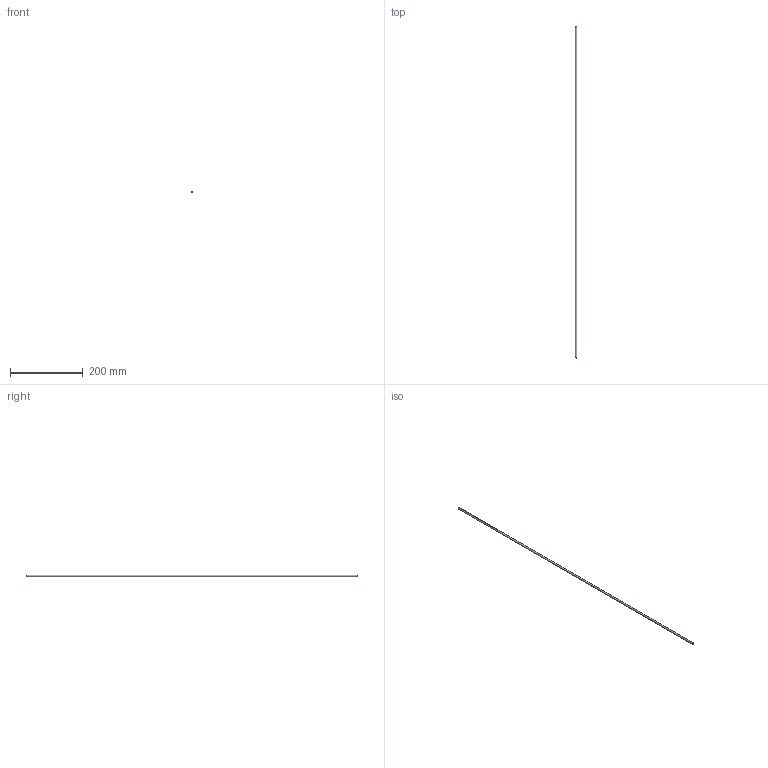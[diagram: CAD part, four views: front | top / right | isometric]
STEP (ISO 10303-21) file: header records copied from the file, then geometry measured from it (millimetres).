
FILE_DESCRIPTION(/* description */ (''),/* implementation_level */ '2;1');
FILE_NAME(/* name */ 'C:/Users/drich/Desktop/187T-36 v1.step',/* time_stamp */ '2019-12-27T17:26:51-06:00',/* author */ (''),/* organization */ (''),/* preprocessor_version */ 'ST-DEVELOPER v18',/* originating_system */ 'Autodesk Translation Framework v8.12.0.6',/* authorisation */ '');
FILE_SCHEMA (('AUTOMOTIVE_DESIGN { 1 0 10303 214 3 1 1 }'));
Length unit declared in the file: inch
Products named in the file (1): 187T-36
Bounding box: 4.73 x 914.4 x 4.73 mm (x, y, z)
Volume: 9036 mm3; surface area: 22568.9 mm2
Topology: 1 solids, 1 shells, 6 faces, 14 edges, 10 vertices
Faces by surface type: cone 2, cylinder 2, plane 2
Full cylindrical faces by diameter (mm): 3.124 x1, 4.727 x1
Entity records: 230 total; most frequent: DIRECTION 38, CARTESIAN_POINT 31, ORIENTED_EDGE 28, AXIS2_PLACEMENT_3D 17, EDGE_CURVE 14, CIRCLE 10, VERTEX_POINT 10, EDGE_LOOP 8
